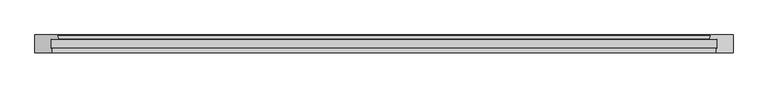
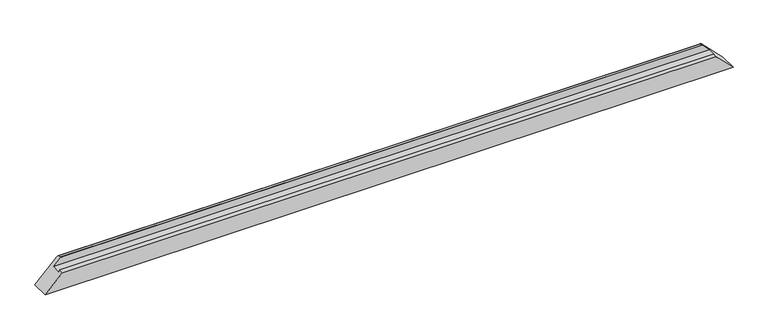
"""IFC4 building model written with IfcOpenShell, lengths in millimetres: proxy geometry, Weiku - Montante - Caixilho 02.2.01.005 : Weiku - Montante - Caixilho 02.2.01.005."""

from ifc_helpers import new_model, si_unit, frame, origin, place, context, project, spatial, ellipse_curve, source, transform, mapped, element, save
from ifc_brep_helpers import plane_surface, cylinder_surface, advanced_brep


def generic_models_aa975dbf(model_context):
    return source(origin(), model_context, "Body", "AdvancedBrep", [
        advanced_brep(
        [(-926.5, -12.5, 46.0), (926.5, -12.5, 46.0), (906.3909676, -12.5, 66.1090324), (-906.3909676, -12.5, 66.1090324), (-926.5, -37.8314286, 46.0), (926.5, -37.8314286, 46.0), (-923.5, -37.027581, 49.0), (923.5, -37.027581, 49.0), (-923.5, -50.0, 49.0), (923.5, -50.0, 49.0), (972.5, -50.0, 0.0), (-972.5, -50.0, 0.0), (-972.5, 0.0, 0.0), (972.5, 0.0, 0.0), (-910.9997332, 0.0, 61.5002668), (910.9997332, 0.0, 61.5002668), (-905.618227, -11.4929448, 66.881773), (905.618227, -11.4929448, 66.881773), (908.1019557, -2.2235429, 64.3980443), (-908.1019557, -2.2235429, 64.3980443)],
        [
            (0, 1),
            (1, 2),
            (2, 3),
            (3, 0),
            (4, 5),
            (5, 1),
            (0, 4),
            (6, 7),
            (7, 5),
            (4, 6),
            (8, 9),
            (9, 7),
            (6, 8),
            (10, 9),
            (8, 11),
            (11, 10),
            (11, 12),
            (12, 13),
            (13, 10),
            (12, 14),
            (14, 15),
            (15, 13),
            (16, 17),
            (17, 18),
            (18, 19),
            (19, 16),
            (3, 16, ellipse_curve(frame((-906.3909676, -11.7, 66.1090324), z_axis=(-0.7071067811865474, 0.0, 0.7071067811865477), x_axis=(-0.7071067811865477, 0.0, -0.7071067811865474)), 1.1313708, 0.8)),
            (19, 14, ellipse_curve(frame((-910.9997332, -3.0, 61.5002668), z_axis=(-0.7071067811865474, 0.0, 0.7071067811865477), x_axis=(-0.7071067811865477, 0.0, -0.7071067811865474)), 4.2426407, 3.0)),
            (15, 18, ellipse_curve(frame((910.9997332, -3.0, 61.5002668), z_axis=(0.7071067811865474, 0.0, 0.7071067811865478), x_axis=(-0.7071067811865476, 0.0, 0.7071067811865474)), 4.2426407, 3.0)),
            (17, 2, ellipse_curve(frame((906.3909676, -11.7, 66.1090324), z_axis=(0.7071067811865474, 0.0, 0.7071067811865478), x_axis=(-0.7071067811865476, 0.0, 0.7071067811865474)), 1.1313708, 0.8)),
        ],
        [
            plane_surface(frame((-972.5, -12.5, 66.1090324), z_axis=(0.0, -1.0, 0.0), x_axis=(1.0, 0.0, 0.0))),
            plane_surface(frame((-972.5, -12.5, 46.0), z_axis=(0.0, 0.0, 1.0), x_axis=(1.0, 0.0, 0.0))),
            plane_surface(frame((-972.5, -37.8314286, 46.0), z_axis=(0.0, 0.9659258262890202, -0.2588190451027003), x_axis=(1.0, 0.0, 0.0))),
            plane_surface(frame((-972.5, -37.027581, 49.0), z_axis=(0.0, 0.0, 1.0), x_axis=(1.0, 0.0, 0.0))),
            plane_surface(frame((-972.5, -50.0, 49.0), z_axis=(0.0, -1.0, 0.0), x_axis=(1.0, 0.0, 0.0))),
            plane_surface(frame((-972.5, -50.0, 0.0), z_axis=(0.0, 0.0, -1.0), x_axis=(1.0, 0.0, 0.0))),
            plane_surface(frame((-972.5, 0.0, 0.0), z_axis=(0.0, 1.0, 0.0), x_axis=(1.0, 0.0, 0.0))),
            plane_surface(frame((-972.5, -2.2235429, 64.3980443), z_axis=(0.0, 0.2588190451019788, 0.9659258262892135), x_axis=(1.0, 0.0, 0.0))),
            plane_surface(frame((-1042.5, 15.0, -70.0), z_axis=(-0.7071067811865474, 0.0, 0.7071067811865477), x_axis=(0.0, -1.0, 0.0))),
            plane_surface(frame((902.5, 15.0, 70.0), z_axis=(0.7071067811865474, 0.0, 0.7071067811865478), x_axis=(0.0, -1.0, 0.0))),
            cylinder_surface(frame((-972.5, -11.7, 66.1090324), z_axis=(-1.0, 0.0, 0.0), x_axis=(0.0, -1.0, 0.0)), 0.8),
            cylinder_surface(frame((-972.5, -3.0, 61.5002668), z_axis=(-1.0, 0.0, 0.0), x_axis=(0.0, -1.0, 0.0)), 3.0),
        ],
        [
            (0, [[1, 2, 3, 4]]),
            (1, [[5, 6, -1, 7]]),
            (2, [[8, 9, -5, 10]]),
            (3, [[11, 12, -8, 13]]),
            (4, [[14, -11, 15, 16]]),
            (5, [[17, 18, 19, -16]]),
            (6, [[20, 21, 22, -18]]),
            (7, [[23, 24, 25, 26]]),
            (8, [[27, -26, 28, -20, -17, -15, -13, -10, -7, -4]]),
            (9, [[-6, -9, -12, -14, -19, -22, 29, -24, 30, -2]]),
            (10, [[-3, -30, -23, -27]]),
            (11, [[-25, -29, -21, -28]]),
        ],
    ),
    ])


if __name__ == "__main__":
    model = new_model("IFC4")
    model_context = context("Model", 3, world=origin())
    ifc_project = project(units=[si_unit("LENGTHUNIT", "METRE", prefix="MILLI")], contexts=[model_context])
    site = spatial("IfcSite", under=ifc_project)
    building = spatial("IfcBuilding", under=site)
    placement = place(None, origin())
    generic_models_shape = generic_models_aa975dbf(model_context)
    element("IfcBuildingElementProxy", 1, Name="Weiku - Montante - Caixilho 02.2.01.005 : Weiku - Montante - Caixilho 02.2.01.005", ObjectType="Weiku - Montante - Caixilho 02.2.01.005 : Weiku - Montante - Caixilho 02.2.01.005", at=placement, inside=building, context=model_context, shape_type="MappedRepresentation", body=[
        mapped(generic_models_shape, transform((0.0, 0.0, 0.0), x_axis=(1.0, 0.0, 0.0), y_axis=(0.0, 1.0, 0.0), z_axis=(0.0, 0.0, 1.0))),
    ])
    save(model, "model.ifc")
